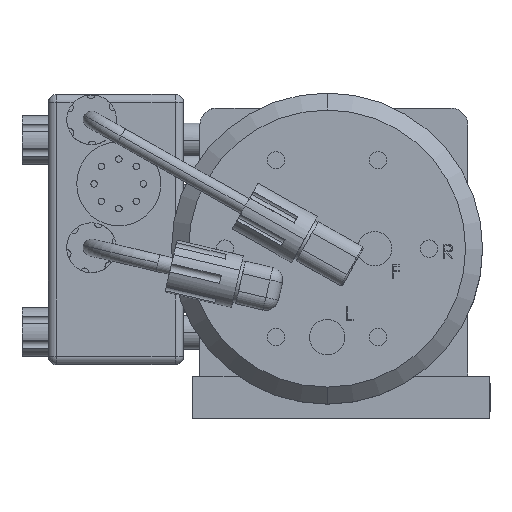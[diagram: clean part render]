
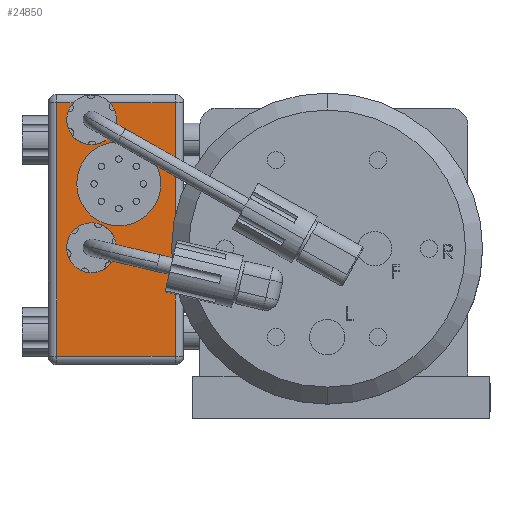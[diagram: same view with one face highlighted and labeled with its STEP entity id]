
A CAD part, top view. The second image highlights one B-rep face of the part: STEP entity #24850.
In plain terms, the highlighted planar face has unit normal (0, 0, 1).
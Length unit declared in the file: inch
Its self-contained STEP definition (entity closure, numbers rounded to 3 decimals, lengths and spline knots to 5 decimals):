
#370 = VERTEX_POINT ( 'NONE', #23652 ) ;
#371 = VERTEX_POINT ( 'NONE', #23598 ) ;
#372 = VERTEX_POINT ( 'NONE', #23595 ) ;
#373 = VERTEX_POINT ( 'NONE', #23651 ) ;
#374 = VERTEX_POINT ( 'NONE', #23579 ) ;
#449 = VERTEX_POINT ( 'NONE', #23604 ) ;
#458 = VERTEX_POINT ( 'NONE', #23587 ) ;
#546 = VERTEX_POINT ( 'NONE', #16633 ) ;
#2680 = LINE ( 'NONE', #9008, #2683 ) ;
#2682 = LINE ( 'NONE', #9003, #2689 ) ;
#2683 = VECTOR ( 'NONE', #9010, 39.37008 ) ;
#2689 = VECTOR ( 'NONE', #9014, 39.37008 ) ;
#2690 = CIRCLE ( 'NONE', #23167, 0.27187 ) ;
#2702 = CIRCLE ( 'NONE', #23176, 0.27187 ) ;
#2703 = LINE ( 'NONE', #9057, #2706 ) ;
#2706 = VECTOR ( 'NONE', #9045, 39.37008 ) ;
#2707 = CIRCLE ( 'NONE', #23175, 0.27187 ) ;
#2714 = LINE ( 'NONE', #9072, #2717 ) ;
#2717 = VECTOR ( 'NONE', #9073, 39.37008 ) ;
#2725 = LINE ( 'NONE', #9086, #2726 ) ;
#2726 = VECTOR ( 'NONE', #9085, 39.37008 ) ;
#3753 = FACE_BOUND ( 'NONE', #20497, .T. ) ;
#3754 = FACE_BOUND ( 'NONE', #6632, .T. ) ;
#3757 = FACE_OUTER_BOUND ( 'NONE', #20527, .T. ) ;
#5332 = CARTESIAN_POINT ( 'NONE',  ( -3.06, 0.955, 1.731 ) ) ;
#5333 = DIRECTION ( 'NONE',  ( 0., 0., -1. ) ) ;
#5335 = DIRECTION ( 'NONE',  ( 0., 1., 0. ) ) ;
#6632 = EDGE_LOOP ( 'NONE', ( #31419, #31409 ) ) ;
#7446 = DIRECTION ( 'NONE',  ( 0., 0., -1. ) ) ;
#7458 = CARTESIAN_POINT ( 'NONE',  ( -4.097, 2.27, 1.731 ) ) ;
#7459 = PLANE ( 'NONE',  #12425 ) ;
#7460 = DIRECTION ( 'NONE',  ( 0., -1., 0. ) ) ;
#8815 = CIRCLE ( 'NONE', #23065, 0.6175 ) ;
#9003 = CARTESIAN_POINT ( 'NONE',  ( -4.097, 2.145, 1.731 ) ) ;
#9008 = CARTESIAN_POINT ( 'NONE',  ( -3.972, -1.7, 1.731 ) ) ;
#9010 = DIRECTION ( 'NONE',  ( 0., -1., 0. ) ) ;
#9014 = DIRECTION ( 'NONE',  ( -1., 0., 0. ) ) ;
#9022 = CARTESIAN_POINT ( 'NONE',  ( -3.46, 1.895, 1.731 ) ) ;
#9023 = DIRECTION ( 'NONE',  ( 0., 0., 1. ) ) ;
#9024 = DIRECTION ( 'NONE',  ( 0., 1., 0. ) ) ;
#9045 = DIRECTION ( 'NONE',  ( 1., 0., 0. ) ) ;
#9057 = CARTESIAN_POINT ( 'NONE',  ( -4.097, -1.575, 1.731 ) ) ;
#9058 = CARTESIAN_POINT ( 'NONE',  ( -3.46, 0.015, 1.731 ) ) ;
#9059 = DIRECTION ( 'NONE',  ( 0., 0., 1. ) ) ;
#9060 = DIRECTION ( 'NONE',  ( 0., 1., 0. ) ) ;
#9067 = CARTESIAN_POINT ( 'NONE',  ( -3.46, 1.895, 1.731 ) ) ;
#9068 = DIRECTION ( 'NONE',  ( 0., 0., 1. ) ) ;
#9069 = DIRECTION ( 'NONE',  ( 0., 1., 0. ) ) ;
#9072 = CARTESIAN_POINT ( 'NONE',  ( -4.097, 2.145, 1.731 ) ) ;
#9073 = DIRECTION ( 'NONE',  ( -1., 0., 0. ) ) ;
#9085 = DIRECTION ( 'NONE',  ( 0., 1., 0. ) ) ;
#9086 = CARTESIAN_POINT ( 'NONE',  ( -2.233, 2.27, 1.731 ) ) ;
#12088 = CIRCLE ( 'NONE', #20294, 0.27187 ) ;
#12132 = CIRCLE ( 'NONE', #20381, 0.27187 ) ;
#12206 = AXIS2_PLACEMENT_3D ( 'NONE', #5332, #5333, #5335 ) ;
#12425 = AXIS2_PLACEMENT_3D ( 'NONE', #7458, #7446, #7460 ) ;
#13040 = EDGE_CURVE ( 'NONE', #458, #449, #8815, .T. ) ;
#13132 = EDGE_CURVE ( 'NONE', #370, #371, #2680, .T. ) ;
#13135 = EDGE_CURVE ( 'NONE', #546, #370, #2682, .T. ) ;
#13138 = EDGE_CURVE ( 'NONE', #546, #29493, #2690, .T. ) ;
#13146 = EDGE_CURVE ( 'NONE', #27878, #27991, #2702, .T. ) ;
#13147 = EDGE_CURVE ( 'NONE', #371, #372, #2703, .T. ) ;
#13150 = EDGE_CURVE ( 'NONE', #29495, #374, #2707, .T. ) ;
#13153 = EDGE_CURVE ( 'NONE', #373, #374, #2714, .T. ) ;
#13159 = EDGE_CURVE ( 'NONE', #372, #373, #2725, .T. ) ;
#15932 = CARTESIAN_POINT ( 'NONE',  ( -3.46, 1.895, 1.731 ) ) ;
#15933 = DIRECTION ( 'NONE',  ( 0., 0., 1. ) ) ;
#15934 = DIRECTION ( 'NONE',  ( 0., 1., 0. ) ) ;
#15990 = CARTESIAN_POINT ( 'NONE',  ( -3.46, 0.015, 1.731 ) ) ;
#15991 = DIRECTION ( 'NONE',  ( 0., 0., 1. ) ) ;
#15992 = DIRECTION ( 'NONE',  ( 0., 1., 0. ) ) ;
#16633 = CARTESIAN_POINT ( 'NONE',  ( -3.56683, 2.145, 1.731 ) ) ;
#20294 = AXIS2_PLACEMENT_3D ( 'NONE', #15932, #15933, #15934 ) ;
#20381 = AXIS2_PLACEMENT_3D ( 'NONE', #15990, #15991, #15992 ) ;
#20497 = EDGE_LOOP ( 'NONE', ( #31372, #31388 ) ) ;
#20527 = EDGE_LOOP ( 'NONE', ( #31371, #31405, #31385, #31383, #31394, #31373, #31391, #31375 ) ) ;
#22664 = CIRCLE ( 'NONE', #12206, 0.6175 ) ;
#23065 = AXIS2_PLACEMENT_3D ( 'NONE', #30359, #30360, #30361 ) ;
#23167 = AXIS2_PLACEMENT_3D ( 'NONE', #9022, #9023, #9024 ) ;
#23175 = AXIS2_PLACEMENT_3D ( 'NONE', #9067, #9068, #9069 ) ;
#23176 = AXIS2_PLACEMENT_3D ( 'NONE', #9058, #9059, #9060 ) ;
#23579 = CARTESIAN_POINT ( 'NONE',  ( -3.35317, 2.145, 1.731 ) ) ;
#23587 = CARTESIAN_POINT ( 'NONE',  ( -3.06, 0.3375, 1.731 ) ) ;
#23595 = CARTESIAN_POINT ( 'NONE',  ( -2.233, -1.575, 1.731 ) ) ;
#23598 = CARTESIAN_POINT ( 'NONE',  ( -3.972, -1.575, 1.731 ) ) ;
#23604 = CARTESIAN_POINT ( 'NONE',  ( -3.06, 1.5725, 1.731 ) ) ;
#23651 = CARTESIAN_POINT ( 'NONE',  ( -2.233, 2.145, 1.731 ) ) ;
#23652 = CARTESIAN_POINT ( 'NONE',  ( -3.972, 2.145, 1.731 ) ) ;
#24581 = EDGE_CURVE ( 'NONE', #449, #458, #22664, .T. ) ;
#24850 = ADVANCED_FACE ( 'NONE', ( #3753, #3757, #3754 ), #7459, .F. ) ;
#26222 = EDGE_CURVE ( 'NONE', #29493, #29495, #12088, .T. ) ;
#26234 = EDGE_CURVE ( 'NONE', #27991, #27878, #12132, .T. ) ;
#27878 = VERTEX_POINT ( 'NONE', #33272 ) ;
#27991 = VERTEX_POINT ( 'NONE', #33385 ) ;
#29493 = VERTEX_POINT ( 'NONE', #33642 ) ;
#29495 = VERTEX_POINT ( 'NONE', #33644 ) ;
#30359 = CARTESIAN_POINT ( 'NONE',  ( -3.06, 0.955, 1.731 ) ) ;
#30360 = DIRECTION ( 'NONE',  ( 0., 0., -1. ) ) ;
#30361 = DIRECTION ( 'NONE',  ( 0., 1., 0. ) ) ;
#31371 = ORIENTED_EDGE ( 'NONE', *, *, #13138, .F. ) ;
#31372 = ORIENTED_EDGE ( 'NONE', *, *, #24581, .T. ) ;
#31373 = ORIENTED_EDGE ( 'NONE', *, *, #13153, .T. ) ;
#31375 = ORIENTED_EDGE ( 'NONE', *, *, #26222, .F. ) ;
#31383 = ORIENTED_EDGE ( 'NONE', *, *, #13147, .T. ) ;
#31385 = ORIENTED_EDGE ( 'NONE', *, *, #13132, .T. ) ;
#31388 = ORIENTED_EDGE ( 'NONE', *, *, #13040, .T. ) ;
#31391 = ORIENTED_EDGE ( 'NONE', *, *, #13150, .F. ) ;
#31394 = ORIENTED_EDGE ( 'NONE', *, *, #13159, .T. ) ;
#31405 = ORIENTED_EDGE ( 'NONE', *, *, #13135, .T. ) ;
#31409 = ORIENTED_EDGE ( 'NONE', *, *, #13146, .F. ) ;
#31419 = ORIENTED_EDGE ( 'NONE', *, *, #26234, .F. ) ;
#33272 = CARTESIAN_POINT ( 'NONE',  ( -3.64811, 0.21128, 1.731 ) ) ;
#33385 = CARTESIAN_POINT ( 'NONE',  ( -3.27189, -0.18128, 1.731 ) ) ;
#33642 = CARTESIAN_POINT ( 'NONE',  ( -3.69268, 1.75439, 1.731 ) ) ;
#33644 = CARTESIAN_POINT ( 'NONE',  ( -3.22732, 2.03561, 1.731 ) ) ;
